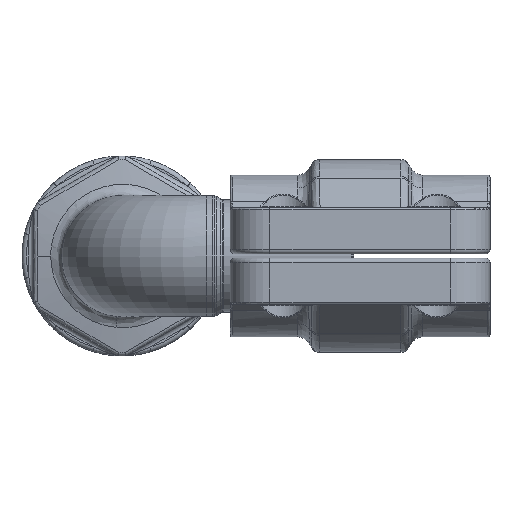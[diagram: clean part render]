
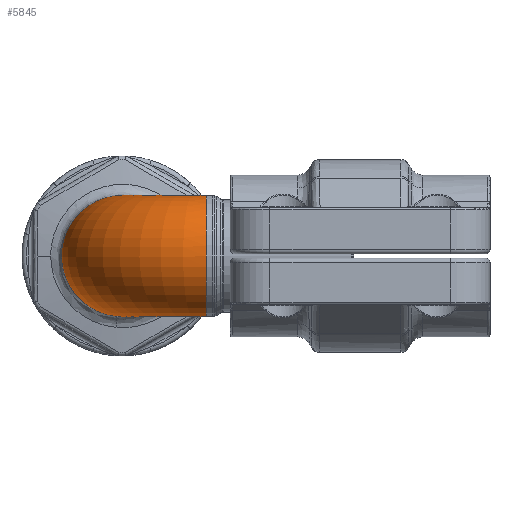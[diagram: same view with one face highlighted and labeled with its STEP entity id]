
A CAD part, left-side view. The second image highlights one B-rep face of the part: STEP entity #5845.
In plain terms, the highlighted toroidal (fillet/blend) face has major radius 19.125 mm and minor radius 13.762 mm.
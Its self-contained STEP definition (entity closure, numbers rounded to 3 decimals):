
#1922=CARTESIAN_POINT('',(16.593,1.135,-13.701));
#1923=CARTESIAN_POINT('',(16.609,1.916,-13.628));
#1924=CARTESIAN_POINT('',(16.644,3.463,-13.35));
#1925=CARTESIAN_POINT('',(16.677,5.654,-12.565));
#1926=CARTESIAN_POINT('',(16.705,7.728,-11.394));
#1927=CARTESIAN_POINT('',(16.725,9.538,-9.915));
#1928=CARTESIAN_POINT('',(16.74,11.081,-8.143));
#1929=CARTESIAN_POINT('',(16.75,12.283,-6.171));
#1930=CARTESIAN_POINT('',(16.757,13.139,-4.03));
#1931=CARTESIAN_POINT('',(16.761,13.627,-1.777));
#1932=CARTESIAN_POINT('',(16.763,13.731,0.54));
#1933=CARTESIAN_POINT('',(16.761,13.448,2.831));
#1934=CARTESIAN_POINT('',(16.755,12.776,5.074));
#1935=CARTESIAN_POINT('',(16.745,11.732,7.171));
#1936=CARTESIAN_POINT('',(16.733,10.34,9.072));
#1937=CARTESIAN_POINT('',(16.715,8.649,10.706));
#1938=CARTESIAN_POINT('',(16.693,6.687,12.041));
#1939=CARTESIAN_POINT('',(16.661,4.526,13.022));
#1940=CARTESIAN_POINT('',(16.623,2.237,13.622));
#1941=CARTESIAN_POINT('',(16.58,0.634,13.762));
#1942=CARTESIAN_POINT('',(16.561,-0.173,
13.762));
#1991=CARTESIAN_POINT('',(16.593,1.135,-13.701));
#2021=CARTESIAN_POINT('',(16.593,1.135,-13.701));
#2022=CARTESIAN_POINT('',(16.589,0.947,
-13.719));
#2023=CARTESIAN_POINT('',(16.578,0.569,
-13.746));
#2024=CARTESIAN_POINT('',(16.57,0.191,
-13.759));
#2025=CARTESIAN_POINT('',(16.565,0.001,
-13.761));
#2030=CARTESIAN_POINT('',(0.,-19.125,0.));
#2031=DIRECTION('',(0.,1.,0.));
#2032=DIRECTION('',(0.,0.,-1.));
#2033=AXIS2_PLACEMENT_3D('',#2030,#2031,#2032);
#2038=CARTESIAN_POINT('',(16.565,0.001,
-13.761));
#2039=CARTESIAN_POINT('',(16.564,-0.056,
-13.762));
#2040=CARTESIAN_POINT('',(16.562,-0.115,
-13.762));
#2041=CARTESIAN_POINT('',(16.561,-0.172,
-13.762));
#2061=CARTESIAN_POINT('',(19.125,-19.125,-13.762));
#2062=DIRECTION('',(0.,0.,-1.));
#2063=DIRECTION('',(-1.,0.,0.));
#2064=AXIS2_PLACEMENT_3D('',#2061,#2062,#2063);
#2077=CARTESIAN_POINT('',(19.125,-19.125,13.762));
#2078=DIRECTION('',(0.,0.,-1.));
#2079=DIRECTION('',(-1.,0.,0.));
#2080=AXIS2_PLACEMENT_3D('',#2077,#2078,#2079);
#2530=CARTESIAN_POINT('',(0.,-19.125,13.762));
#2532=VERTEX_POINT('',#2530);
#2534=CARTESIAN_POINT('',(0.,-19.125,-13.762));
#2536=VERTEX_POINT('',#2534);
#2538=CARTESIAN_POINT('',(16.562,-0.173,
13.762));
#2539=VERTEX_POINT('',#2538);
#2540=CARTESIAN_POINT('',(16.561,-0.173,
-13.762));
#2541=VERTEX_POINT('',#2540);
#2572=VERTEX_POINT('',#1991);
#2575=VERTEX_POINT('',#2025);
#5829=CARTESIAN_POINT('',(19.125,-19.125,0.));
#5830=DIRECTION('',(0.,0.,1.));
#5831=DIRECTION('',(-1.,0.,0.));
#5832=AXIS2_PLACEMENT_3D('',#5829,#5830,#5831);
#5833=TOROIDAL_SURFACE('',#5832,19.125,13.762);
#5834=ORIENTED_EDGE('',*,*,#5819,.F.);
#5835=ORIENTED_EDGE('',*,*,#5696,.T.);
#5837=ORIENTED_EDGE('',*,*,#5836,.F.);
#5839=ORIENTED_EDGE('',*,*,#5838,.F.);
#5841=ORIENTED_EDGE('',*,*,#5840,.T.);
#5842=ORIENTED_EDGE('',*,*,#5821,.F.);
#5843=EDGE_LOOP('',(#5834,#5835,#5837,#5839,#5841,#5842));
#5844=FACE_OUTER_BOUND('',#5843,.F.);
#1943=B_SPLINE_CURVE_WITH_KNOTS('',3,(#1922,#1923,#1924,#1925,#1926,#1927,#1928,
#1929,#1930,#1931,#1932,#1933,#1934,#1935,#1936,#1937,#1938,#1939,#1940,#1941,
#1942),.UNSPECIFIED.,.F.,.F.,(4,1,1,1,1,1,1,1,1,1,1,1,1,1,1,1,1,1,4),(0.,
0.056,0.111,0.167,0.222,
0.278,0.333,0.389,0.444,0.5,
0.556,0.611,0.667,0.722,
0.778,0.833,0.889,0.944,1.),
.UNSPECIFIED.);
#2026=B_SPLINE_CURVE_WITH_KNOTS('',3,(#2021,#2022,#2023,#2024,#2025),
.UNSPECIFIED.,.F.,.F.,(4,1,4),(0.,0.5,1.),.UNSPECIFIED.);
#2034=CIRCLE('',#2033,13.762);
#2042=B_SPLINE_CURVE_WITH_KNOTS('',3,(#2038,#2039,#2040,#2041),.UNSPECIFIED.,
.F.,.F.,(4,4),(0.,1.),.UNSPECIFIED.);
#2065=CIRCLE('',#2064,19.125);
#2081=CIRCLE('',#2080,19.125);
#5696=EDGE_CURVE('',#2572,#2539,#1943,.T.);
#5819=EDGE_CURVE('',#2572,#2575,#2026,.T.);
#5821=EDGE_CURVE('',#2575,#2541,#2042,.T.);
#5836=EDGE_CURVE('',#2532,#2539,#2081,.T.);
#5838=EDGE_CURVE('',#2536,#2532,#2034,.T.);
#5840=EDGE_CURVE('',#2536,#2541,#2065,.T.);
#5845=ADVANCED_FACE('',(#5844),#5833,.T.);
